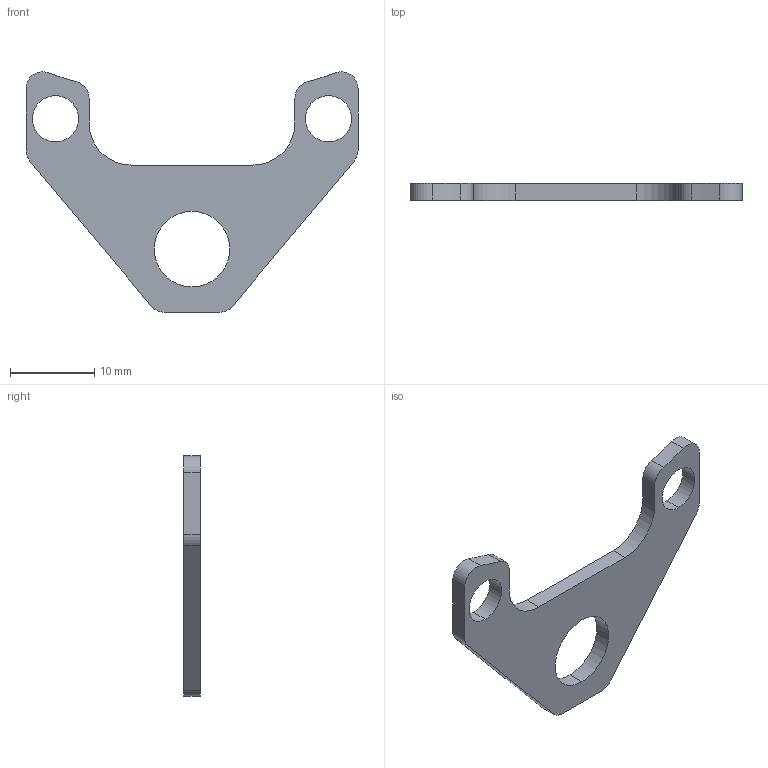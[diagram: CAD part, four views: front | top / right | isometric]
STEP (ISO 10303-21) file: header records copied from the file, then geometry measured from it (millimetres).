
FILE_DESCRIPTION (( 'STEP AP214' ), '1' );
FILE_NAME ('NTS311-B-BRACKET.STEP', '2025-01-09T07:03:06', ( '' ), ( '' ), 'SwSTEP 2.0', 'SolidWorks 2022', '' );
FILE_SCHEMA (( 'AUTOMOTIVE_DESIGN' ));
Length unit declared in the file: millimetre
Products named in the file (1): NTS311-B-BRACKET
Bounding box: 39.5 x 2 x 28.59 mm (x, y, z)
Volume: 916.8 mm3; surface area: 1299.7 mm2
Topology: 1 solids, 1 shells, 28 faces, 78 edges, 52 vertices
Faces by surface type: cylinder 18, plane 10
Entity records: 964 total; most frequent: DIRECTION 172, CARTESIAN_POINT 159, ORIENTED_EDGE 156, EDGE_CURVE 78, AXIS2_PLACEMENT_3D 65, VERTEX_POINT 52, VECTOR 42, LINE 42
